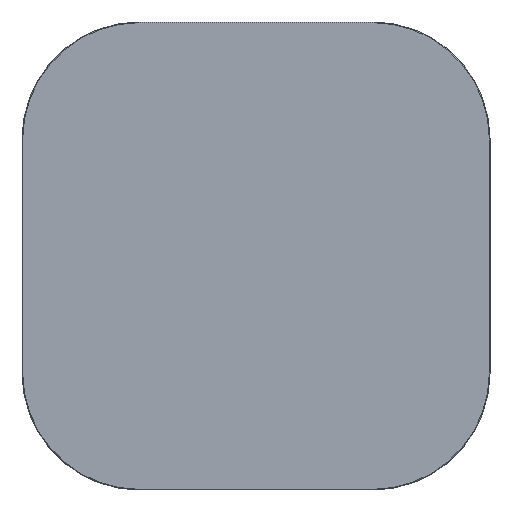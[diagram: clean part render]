
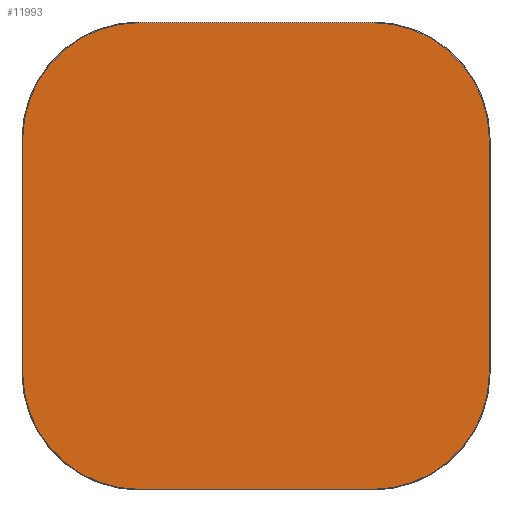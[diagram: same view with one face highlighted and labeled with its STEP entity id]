
A CAD part, top view. The second image highlights one B-rep face of the part: STEP entity #11993.
In plain terms, the highlighted planar face has unit normal (0, 0, 1).
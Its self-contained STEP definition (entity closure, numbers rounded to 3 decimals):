
#11918=CARTESIAN_POINT('',(0.,0.,20.));
#11919=DIRECTION('',(1.,0.,0.));
#11920=DIRECTION('',(0.,0.,1.));
#11921=AXIS2_PLACEMENT_3D('',#11918,#11920,#11919);
#11922=PLANE('',#11921);
#11923=CARTESIAN_POINT('',(-250.,-498.5,20.));
#11924=VERTEX_POINT('',#11923);
#11925=CARTESIAN_POINT('',(250.,-498.5,20.));
#11926=VERTEX_POINT('',#11925);
#11927=CARTESIAN_POINT('',(-250.,-498.5,20.));
#11928=DIRECTION('',(1.,0.,0.));
#11929=VECTOR('',#11928,500.);
#11930=LINE('',#11927,#11929);
#11931=EDGE_CURVE('',#11924,#11926,#11930,.T.);
#11932=ORIENTED_EDGE('E105',*,*,#11931,.T.);
#11933=CARTESIAN_POINT('',(498.5,-250.,20.));
#11934=VERTEX_POINT('',#11933);
#11935=CARTESIAN_POINT('',(250.,-250.,20.));
#11936=DIRECTION('',(0.,-1.,0.));
#11937=DIRECTION('',(0.,0.,1.));
#11938=AXIS2_PLACEMENT_3D('',#11935,#11937,#11936);
#11939=CIRCLE('',#11938,248.5);
#11940=EDGE_CURVE('',#11926,#11934,#11939,.T.);
#11941=ORIENTED_EDGE('E107',*,*,#11940,.T.);
#11942=CARTESIAN_POINT('',(498.5,250.,20.));
#11943=VERTEX_POINT('',#11942);
#11944=CARTESIAN_POINT('',(498.5,-250.,20.));
#11945=DIRECTION('',(0.,1.,0.));
#11946=VECTOR('',#11945,500.);
#11947=LINE('',#11944,#11946);
#11948=EDGE_CURVE('',#11934,#11943,#11947,.T.);
#11949=ORIENTED_EDGE('E109',*,*,#11948,.T.);
#11950=CARTESIAN_POINT('',(250.,498.5,20.));
#11951=VERTEX_POINT('',#11950);
#11952=CARTESIAN_POINT('',(250.,250.,20.));
#11953=DIRECTION('',(1.,0.,0.));
#11954=DIRECTION('',(0.,0.,1.));
#11955=AXIS2_PLACEMENT_3D('',#11952,#11954,#11953);
#11956=CIRCLE('',#11955,248.5);
#11957=EDGE_CURVE('',#11943,#11951,#11956,.T.);
#11958=ORIENTED_EDGE('E111',*,*,#11957,.T.);
#11959=CARTESIAN_POINT('',(-250.,498.5,20.));
#11960=VERTEX_POINT('',#11959);
#11961=CARTESIAN_POINT('',(250.,498.5,20.));
#11962=DIRECTION('',(-1.,0.,0.));
#11963=VECTOR('',#11962,500.);
#11964=LINE('',#11961,#11963);
#11965=EDGE_CURVE('',#11951,#11960,#11964,.T.);
#11966=ORIENTED_EDGE('E113',*,*,#11965,.T.);
#11967=CARTESIAN_POINT('',(-498.5,250.,20.));
#11968=VERTEX_POINT('',#11967);
#11969=CARTESIAN_POINT('',(-250.,250.,20.));
#11970=DIRECTION('',(0.,1.,0.));
#11971=DIRECTION('',(0.,0.,1.));
#11972=AXIS2_PLACEMENT_3D('',#11969,#11971,#11970);
#11973=CIRCLE('',#11972,248.5);
#11974=EDGE_CURVE('',#11960,#11968,#11973,.T.);
#11975=ORIENTED_EDGE('E115',*,*,#11974,.T.);
#11976=CARTESIAN_POINT('',(-498.5,-250.,20.));
#11977=VERTEX_POINT('',#11976);
#11978=CARTESIAN_POINT('',(-498.5,250.,20.));
#11979=DIRECTION('',(0.,-1.,0.));
#11980=VECTOR('',#11979,500.);
#11981=LINE('',#11978,#11980);
#11982=EDGE_CURVE('',#11968,#11977,#11981,.T.);
#11983=ORIENTED_EDGE('E117',*,*,#11982,.T.);
#11984=CARTESIAN_POINT('',(-250.,-250.,20.));
#11985=DIRECTION('',(-1.,0.,0.));
#11986=DIRECTION('',(-0.,0.,1.));
#11987=AXIS2_PLACEMENT_3D('',#11984,#11986,#11985);
#11988=CIRCLE('',#11987,248.5);
#11989=EDGE_CURVE('',#11977,#11924,#11988,.T.);
#11990=ORIENTED_EDGE('E119',*,*,#11989,.T.);
#11991=EDGE_LOOP('',(#11932,#11941,#11949,#11958,#11966,#11975,#11983,#11990));
#11992=FACE_OUTER_BOUND('',#11991,.T.);
#11993=ADVANCED_FACE('F2',(#11992),#11922,.T.);
